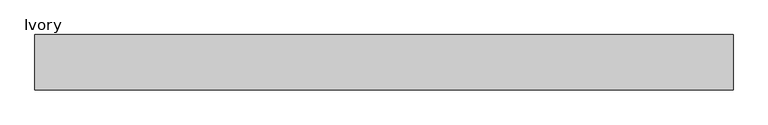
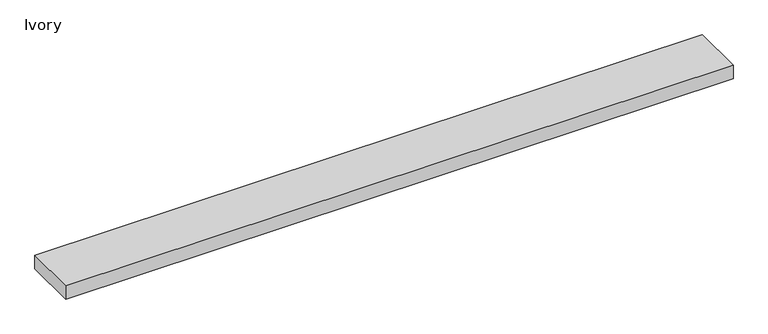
"""IFC4 building model written with IfcOpenShell, lengths in millimetres: proxy geometry, Raceway-5500_Series-Wiremold-Multi_Channel : Ivory."""

from ifc_helpers import new_model, si_unit, origin, origin_with_axes, place, context, project, spatial, polyline, outline, extrude, source, transform, mapped, element, save


def ivory_71453573(model_context):
    return source(origin(), model_context, "Body", "SweptSolid", [
        extrude(outline(polyline([(2133.6, 84.9376), (2133.6, -84.9376), (0.0, -84.9376), (0.0, 84.9376), (2133.6, 84.9376)])), origin_with_axes(), (0.0, 0.0, 1.0), 44.45),
    ])


if __name__ == "__main__":
    model = new_model("IFC4")
    model_context = context("Model", 3, world=origin())
    ifc_project = project(units=[si_unit("LENGTHUNIT", "METRE", prefix="MILLI")], contexts=[model_context])
    site = spatial("IfcSite", under=ifc_project)
    building = spatial("IfcBuilding", under=site)
    placement = place(None, origin())
    ivory_shape = ivory_71453573(model_context)
    element("IfcBuildingElementProxy", 1, Name="Raceway-5500_Series-Wiremold-Multi_Channel : Ivory", ObjectType="Raceway-5500_Series-Wiremold-Multi_Channel : Ivory", at=placement, inside=building, context=model_context, shape_type="MappedRepresentation", body=[
        mapped(ivory_shape, transform((0.0, 0.0, 0.0), x_axis=(1.0, 0.0, 0.0), y_axis=(0.0, 1.0, 0.0), z_axis=(0.0, 0.0, 1.0))),
    ])
    save(model, "model.ifc")
